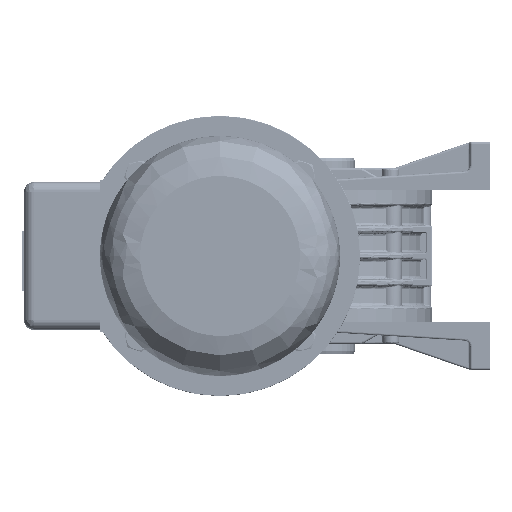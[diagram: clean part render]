
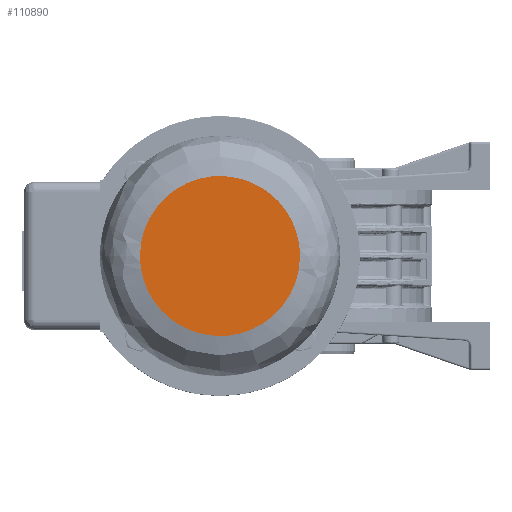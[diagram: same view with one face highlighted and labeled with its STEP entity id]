
A CAD part, left-side view. The second image highlights one B-rep face of the part: STEP entity #110890.
In plain terms, the highlighted planar face has unit normal (-1, 0, 0).
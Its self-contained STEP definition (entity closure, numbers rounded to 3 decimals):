
#110266 = ORIENTED_EDGE ( 'NONE', *, *, #306893, .F. ) ;
#110458 = EDGE_LOOP ( 'NONE', ( #110891, #110266 ) ) ;
#110890 = ADVANCED_FACE ( 'NONE', ( #129494 ), #129500, .T. ) ;
#110891 = ORIENTED_EDGE ( 'NONE', *, *, #263638, .F. ) ;
#129487 = CARTESIAN_POINT ( 'NONE',  ( -298., 50., 0. ) ) ;
#129489 = AXIS2_PLACEMENT_3D ( 'NONE', #129487, #129704, #129702 ) ;
#129494 = FACE_OUTER_BOUND ( 'NONE', #110458, .T. ) ;
#129500 = PLANE ( 'NONE',  #129489 ) ;
#129702 = DIRECTION ( 'NONE',  ( 0., -1., 0. ) ) ;
#129704 = DIRECTION ( 'NONE',  ( -1., 0., 0. ) ) ;
#144721 = CARTESIAN_POINT ( 'NONE',  ( -298., 90., 0. ) ) ;
#144722 = CARTESIAN_POINT ( 'NONE',  ( -298., 90., -80. ) ) ;
#144723 = CARTESIAN_POINT ( 'NONE',  ( -298., 10., -80. ) ) ;
#144724 = CARTESIAN_POINT ( 'NONE',  ( -298., 10., 0. ) ) ;
#144725 =( BOUNDED_CURVE ( )  B_SPLINE_CURVE ( 3, ( #144724, #144723, #144722, #144721 ),
 .UNSPECIFIED., .F., .T. ) 
 B_SPLINE_CURVE_WITH_KNOTS ( ( 4, 4 ),
 ( 0.5, 1. ),
 .UNSPECIFIED. ) 
 CURVE ( )  GEOMETRIC_REPRESENTATION_ITEM ( )  RATIONAL_B_SPLINE_CURVE ( ( 1., 0.333, 0.333, 1. ) ) 
 REPRESENTATION_ITEM ( '' )  );
#263601 = VERTEX_POINT ( 'NONE', #288338 ) ;
#263638 = EDGE_CURVE ( 'NONE', #263641, #263601, #288651, .T. ) ;
#263641 = VERTEX_POINT ( 'NONE', #288438 ) ;
#288338 = CARTESIAN_POINT ( 'NONE',  ( -298., 10., 0. ) ) ;
#288438 = CARTESIAN_POINT ( 'NONE',  ( -298., 90., 0. ) ) ;
#288629 = CARTESIAN_POINT ( 'NONE',  ( -298., 10., 0. ) ) ;
#288630 = CARTESIAN_POINT ( 'NONE',  ( -298., 10., 80. ) ) ;
#288633 = CARTESIAN_POINT ( 'NONE',  ( -298., 90., 80. ) ) ;
#288636 = CARTESIAN_POINT ( 'NONE',  ( -298., 90., 0. ) ) ;
#288651 =( BOUNDED_CURVE ( )  B_SPLINE_CURVE ( 3, ( #288636, #288633, #288630, #288629 ),
 .UNSPECIFIED., .F., .T. ) 
 B_SPLINE_CURVE_WITH_KNOTS ( ( 4, 4 ),
 ( 0., 0.5 ),
 .UNSPECIFIED. ) 
 CURVE ( )  GEOMETRIC_REPRESENTATION_ITEM ( )  RATIONAL_B_SPLINE_CURVE ( ( 1., 0.333, 0.333, 1. ) ) 
 REPRESENTATION_ITEM ( '' )  );
#306893 = EDGE_CURVE ( 'NONE', #263601, #263641, #144725, .T. ) ;
